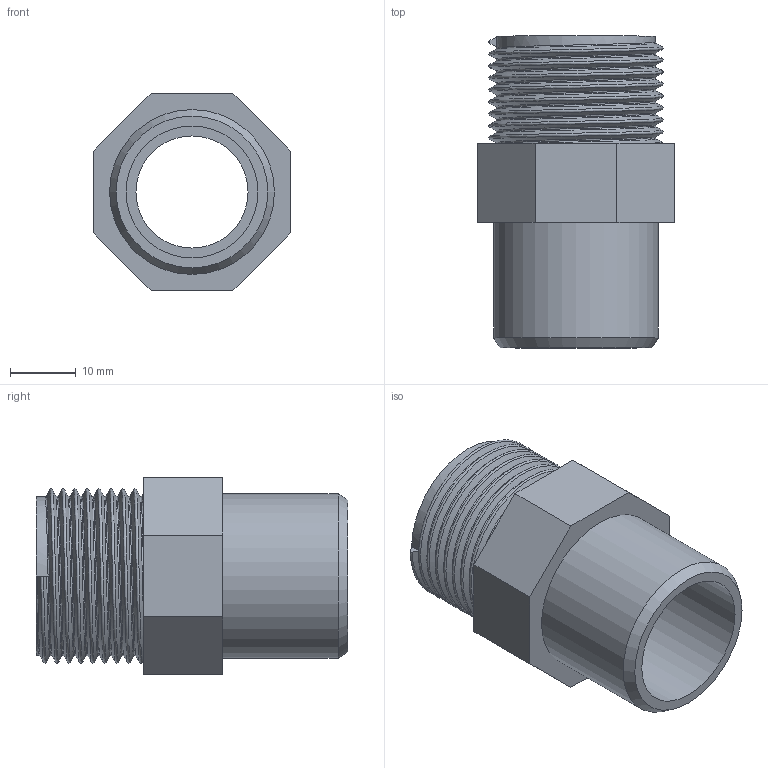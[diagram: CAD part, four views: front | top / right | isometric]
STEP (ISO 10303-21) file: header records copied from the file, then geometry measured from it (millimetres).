
FILE_DESCRIPTION(/* description */ ('PVC adattatore incollaggio-filettatura BSP maschio'),/* implementation_level */ '2;1');
FILE_NAME(/* name */ 'C:\Users\POLYPIPE\Desktop\DATASET INVENTOR\LIBRERIA EFFAST\RACCORDI 3DxWEB\RGR\3D_RGRAMG\3D_RGRAMG020C.stp',/* time_stamp */ '2018-01-19T17:34:29+01:00',/* author */ ('POLYPIPE'),/* organization */ ('Polypipe Italia s.r.l.'),/* preprocessor_version */ 'ST-DEVELOPER v16.1',/* originating_system */ 'Autodesk Inventor 2016',/* authorisation */ '');
FILE_SCHEMA (('CONFIG_CONTROL_DESIGN'));
Length unit declared in the file: millimetre
Products named in the file (1): 3D_RGRAMG
Bounding box: 30 x 47.3 x 30 mm (x, y, z)
Volume: 13622.7 mm3; surface area: 8528.2 mm2
Topology: 1 solids, 1 shells, 26 faces, 56 edges, 36 vertices
Faces by surface type: plane 15, cylinder 5, bspline 5, cone 1
Full cylindrical faces by diameter (mm): 17 x1, 18 x1, 20 x1, 24.117 x1, 25 x1
Entity records: 3949 total; most frequent: CARTESIAN_POINT 3396, ORIENTED_EDGE 102, DIRECTION 97, EDGE_CURVE 51, EDGE_LOOP 37, VERTEX_POINT 36, AXIS2_PLACEMENT_3D 35, LINE 27
